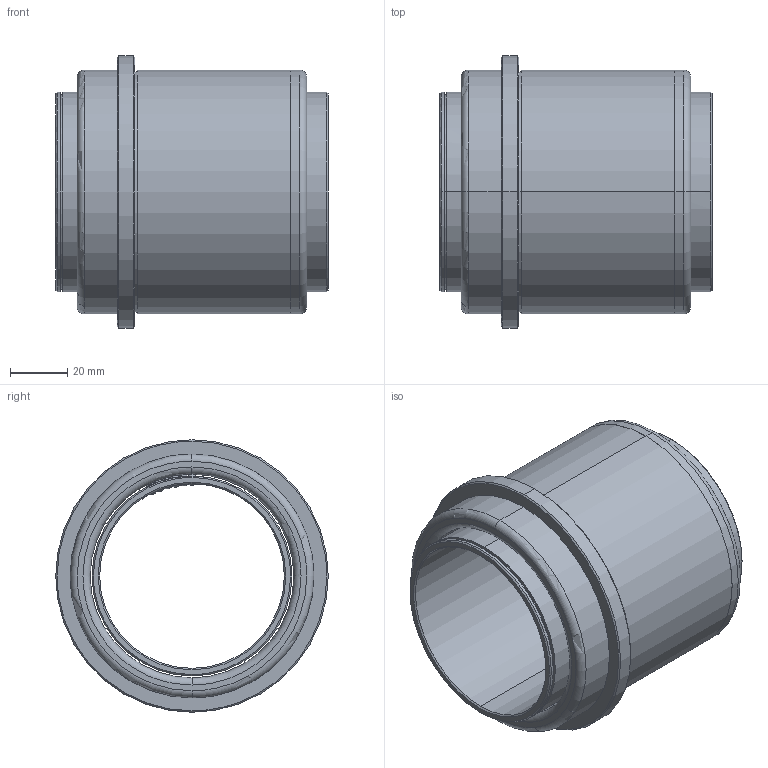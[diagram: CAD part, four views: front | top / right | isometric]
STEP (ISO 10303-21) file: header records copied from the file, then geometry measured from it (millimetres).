
FILE_DESCRIPTION(('CATIA V5 STEP Exchange'),'2;1');
FILE_NAME('C:\Users\Utente\Desktop\IO LAVORO\3D X SITO CF\X SITO\732\732-63.stp','2021-01-10T19:16:19+00:00',('none'),('none'),'CATIA Version 5 Release 20 GA (IN-10)','CATIA V5 STEP AP203','none');
FILE_SCHEMA(('CONFIG_CONTROL_DESIGN'));
Length unit declared in the file: millimetre
Products named in the file (1): 732-63
Assembly tree (2 placements, depth 2):
  732-63
    #58
    #1297
Bounding box: 95 x 95 x 95 mm (x, y, z)
Volume: 197180.8 mm3; surface area: 85998.4 mm2
Topology: 2 solids, 2 shells, 74 faces, 217 edges, 163 vertices
Faces by surface type: sphere 24, cylinder 20, cone 12, plane 10, torus 8
Entity records: 3059 total; most frequent: CARTESIAN_POINT 1069, ORIENTED_EDGE 434, DIRECTION 310, EDGE_CURVE 217, AXIS2_PLACEMENT_3D 198, VERTEX_POINT 163, CIRCLE 120, EDGE_LOOP 94
